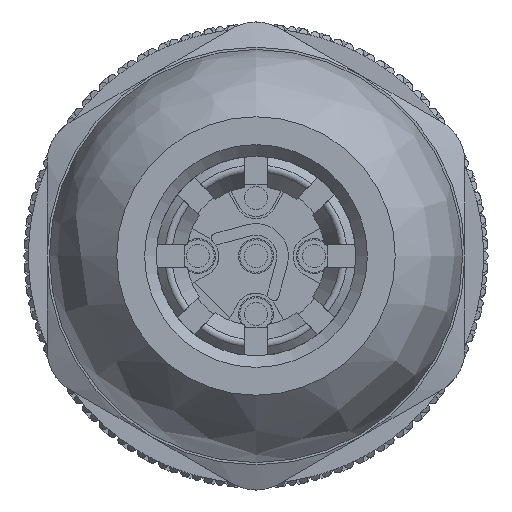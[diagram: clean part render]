
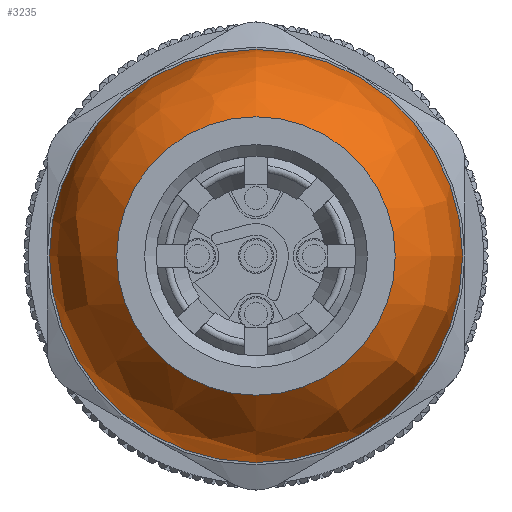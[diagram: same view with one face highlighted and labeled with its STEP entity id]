
A CAD part, front view. The second image highlights one B-rep face of the part: STEP entity #3235.
In plain terms, the highlighted free-form (B-spline) face has degree [3, 3] with [4, 7] control points.
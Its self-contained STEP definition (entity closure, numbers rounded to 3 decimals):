
#163=(
BOUNDED_SURFACE()
B_SPLINE_SURFACE(3,3,((#36447,#36448,#36449,#36450,#36451,#36452,#36453),
(#36454,#36455,#36456,#36457,#36458,#36459,#36460),(#36461,#36462,#36463,
#36464,#36465,#36466,#36467),(#36468,#36469,#36470,#36471,#36472,#36473,
#36474)),.UNSPECIFIED.,.F.,.T.,.F.)
B_SPLINE_SURFACE_WITH_KNOTS((4,4),(1,3,3,3,1),(0.,1.),(-0.5,0.,0.5,1.,1.5),
 .UNSPECIFIED.)
GEOMETRIC_REPRESENTATION_ITEM()
RATIONAL_B_SPLINE_SURFACE(((1.,0.333,0.333,1.,0.333,
0.333,1.),(0.923,0.308,0.308,
0.923,0.308,0.308,0.923),
(0.923,0.308,0.308,0.923,
0.308,0.308,0.923),(1.,0.333,
0.333,1.,0.333,0.333,1.)))
REPRESENTATION_ITEM('')
SURFACE()
);
#3235=ADVANCED_FACE('',(#4700,#4701),#163,.T.);
#4700=FACE_BOUND('',#5535,.T.);
#4701=FACE_BOUND('',#5536,.T.);
#5535=EDGE_LOOP('',(#11153));
#5536=EDGE_LOOP('',(#11154));
#11153=ORIENTED_EDGE('',*,*,#17711,.F.);
#11154=ORIENTED_EDGE('',*,*,#17712,.T.);
#15462=VERTEX_POINT('',#36443);
#15463=VERTEX_POINT('',#36446);
#17711=EDGE_CURVE('',#15462,#15462,#19836,.T.);
#17712=EDGE_CURVE('',#15463,#15463,#19837,.T.);
#19836=CIRCLE('',#21498,8.9);
#19837=CIRCLE('',#21500,6.);
#21498=AXIS2_PLACEMENT_3D('',#36442,#25454,#25455);
#21500=AXIS2_PLACEMENT_3D('',#36445,#25458,#25459);
#25454=DIRECTION('',(0.,1.,0.));
#25455=DIRECTION('',(0.,0.,1.));
#25458=DIRECTION('',(0.,1.,0.));
#25459=DIRECTION('',(0.,0.,1.));
#36442=CARTESIAN_POINT('',(0.,-49.,0.));
#36443=CARTESIAN_POINT('',(0.,-49.,8.9));
#36445=CARTESIAN_POINT('',(0.,-54.5,0.));
#36446=CARTESIAN_POINT('',(0.,-54.5,6.));
#36447=CARTESIAN_POINT('',(-8.9,-49.,0.));
#36448=CARTESIAN_POINT('',(-8.9,-49.,17.8));
#36449=CARTESIAN_POINT('',(8.9,-49.,17.8));
#36450=CARTESIAN_POINT('',(8.9,-49.,0.));
#36451=CARTESIAN_POINT('',(8.9,-49.,-17.8));
#36452=CARTESIAN_POINT('',(-8.9,-49.,-17.8));
#36453=CARTESIAN_POINT('',(-8.9,-49.,0.));
#36454=CARTESIAN_POINT('',(-8.9,-51.245,0.));
#36455=CARTESIAN_POINT('',(-8.9,-51.245,17.8));
#36456=CARTESIAN_POINT('',(8.9,-51.245,17.8));
#36457=CARTESIAN_POINT('',(8.9,-51.245,0.));
#36458=CARTESIAN_POINT('',(8.9,-51.245,-17.8));
#36459=CARTESIAN_POINT('',(-8.9,-51.245,-17.8));
#36460=CARTESIAN_POINT('',(-8.9,-51.245,0.));
#36461=CARTESIAN_POINT('',(-7.853,-53.232,0.));
#36462=CARTESIAN_POINT('',(-7.853,-53.232,15.706));
#36463=CARTESIAN_POINT('',(7.853,-53.232,15.706));
#36464=CARTESIAN_POINT('',(7.853,-53.232,0.));
#36465=CARTESIAN_POINT('',(7.853,-53.232,-15.705));
#36466=CARTESIAN_POINT('',(-7.853,-53.232,-15.705));
#36467=CARTESIAN_POINT('',(-7.853,-53.232,0.));
#36468=CARTESIAN_POINT('',(-6.,-54.5,0.));
#36469=CARTESIAN_POINT('',(-6.,-54.5,12.));
#36470=CARTESIAN_POINT('',(6.,-54.5,12.));
#36471=CARTESIAN_POINT('',(6.,-54.5,0.));
#36472=CARTESIAN_POINT('',(6.,-54.5,-12.));
#36473=CARTESIAN_POINT('',(-6.,-54.5,-12.));
#36474=CARTESIAN_POINT('',(-6.,-54.5,0.));
